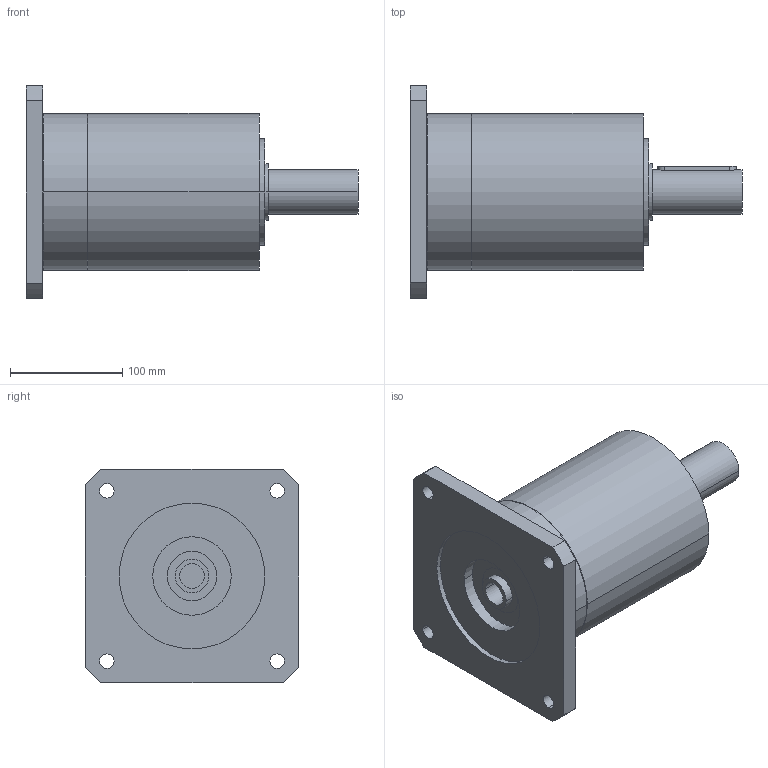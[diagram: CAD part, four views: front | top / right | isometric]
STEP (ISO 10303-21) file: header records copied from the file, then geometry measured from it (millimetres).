
FILE_DESCRIPTION(('CoCreate Modeling STEP Export'),'2;1');
FILE_NAME('GPR150_ig-9-12-16-20-28-35_40_B14_22_P13.stp','2014-08-26T15:30:42',(''),(''),'CoCreate Modeling STEP processor for AP214 (Solid Model)','CoCreate Modeling 16.00C 25-Feb-2009 (C) Parametric Technology GmbH','');
FILE_SCHEMA(('AUTOMOTIVE_DESIGN { 1 0 10303 214 1 1 1 1 }'));
Length unit declared in the file: millimetre
Products named in the file (2): GPR150_ig-9-12-16-20-28-35_40_B14_22_P13
Assembly tree (1 placements, depth 2):
  GPR150_ig-9-12-16-20-28-35_40_B14_22_P13
    GPR150_ig-9-12-16-20-28-35_40_B14_22_P13
Bounding box: 296 x 190 x 190 mm (x, y, z)
Volume: 3514370.6 mm3; surface area: 195247.7 mm2
Topology: 1 solids, 1 shells, 73 faces, 193 edges, 135 vertices
Faces by surface type: cylinder 44, plane 23, cone 6
Entity records: 2028 total; most frequent: CARTESIAN_POINT 394, ORIENTED_EDGE 382, DIRECTION 274, EDGE_CURVE 191, VERTEX_POINT 135, AXIS2_PLACEMENT_3D 103, EDGE_LOOP 96, FACE_OUTER_BOUND 73
